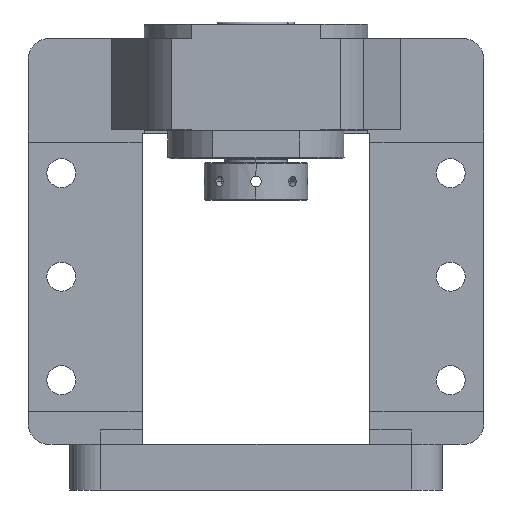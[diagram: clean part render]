
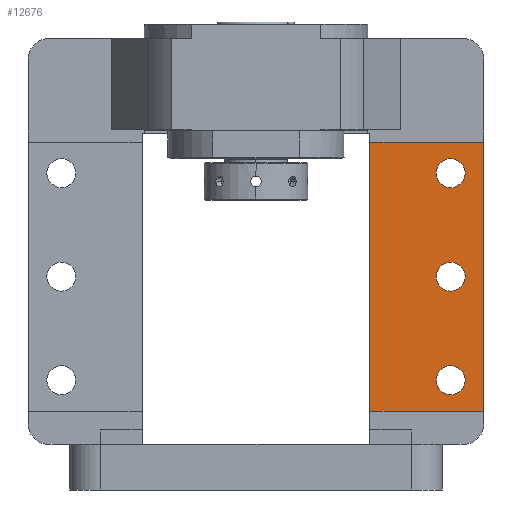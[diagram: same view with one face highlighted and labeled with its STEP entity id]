
A CAD part, front view. The second image highlights one B-rep face of the part: STEP entity #12676.
In plain terms, the highlighted planar face has unit normal (0, -1, 0).
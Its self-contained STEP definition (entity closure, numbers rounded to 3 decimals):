
#746 = CARTESIAN_POINT ( 'NONE',  ( 94., 0., 103. ) ) ;
#765 = VERTEX_POINT ( 'NONE', #18275 ) ;
#1286 = EDGE_LOOP ( 'NONE', ( #18541, #15675 ) ) ;
#1466 = EDGE_CURVE ( 'NONE', #3600, #19894, #20014, .T. ) ;
#2004 = CARTESIAN_POINT ( 'NONE',  ( 110., 0., 168. ) ) ;
#2582 = CARTESIAN_POINT ( 'NONE',  ( 94., 0., 160. ) ) ;
#2654 = DIRECTION ( 'NONE',  ( 0., 0., -1. ) ) ;
#3382 = EDGE_CURVE ( 'NONE', #20106, #15904, #9042, .T. ) ;
#3600 = VERTEX_POINT ( 'NONE', #19717 ) ;
#4145 = CARTESIAN_POINT ( 'NONE',  ( 110., 0., 38. ) ) ;
#4288 = ORIENTED_EDGE ( 'NONE', *, *, #23776, .T. ) ;
#4439 = VECTOR ( 'NONE', #23902, 1000. ) ;
#4878 = ORIENTED_EDGE ( 'NONE', *, *, #3382, .F. ) ;
#4960 = CARTESIAN_POINT ( 'NONE',  ( 55., 0., 168. ) ) ;
#5296 = DIRECTION ( 'NONE',  ( 0., -1., 0. ) ) ;
#5326 = CARTESIAN_POINT ( 'NONE',  ( 94., 0., 60. ) ) ;
#5973 = EDGE_CURVE ( 'NONE', #7941, #765, #24545, .T. ) ;
#5998 = DIRECTION ( 'NONE',  ( 0., -1., 0. ) ) ;
#6560 = DIRECTION ( 'NONE',  ( 0., 0., -1. ) ) ;
#7088 = EDGE_CURVE ( 'NONE', #13876, #21099, #16394, .T. ) ;
#7211 = EDGE_CURVE ( 'NONE', #7500, #19894, #10125, .T. ) ;
#7436 = CARTESIAN_POINT ( 'NONE',  ( 94., 0., 153. ) ) ;
#7500 = VERTEX_POINT ( 'NONE', #13306 ) ;
#7941 = VERTEX_POINT ( 'NONE', #2582 ) ;
#7955 = DIRECTION ( 'NONE',  ( 0., -1., 0. ) ) ;
#8083 = FACE_OUTER_BOUND ( 'NONE', #20009, .T. ) ;
#8337 = EDGE_CURVE ( 'NONE', #7500, #18998, #11901, .T. ) ;
#8507 = CARTESIAN_POINT ( 'NONE',  ( 94., 0., 153. ) ) ;
#8608 = CARTESIAN_POINT ( 'NONE',  ( 94., 0., 46. ) ) ;
#9042 = CIRCLE ( 'NONE', #9043, 7. ) ;
#9043 = AXIS2_PLACEMENT_3D ( 'NONE', #19063, #7955, #21329 ) ;
#9229 = AXIS2_PLACEMENT_3D ( 'NONE', #16758, #5296, #18676 ) ;
#9292 = EDGE_LOOP ( 'NONE', ( #4878, #11381 ) ) ;
#9363 = DIRECTION ( 'NONE',  ( 0., 0., -1. ) ) ;
#9593 = CIRCLE ( 'NONE', #19591, 7. ) ;
#10125 = LINE ( 'NONE', #14783, #19699 ) ;
#10391 = CARTESIAN_POINT ( 'NONE',  ( 94., 0., 110. ) ) ;
#10404 = DIRECTION ( 'NONE',  ( 0., 0., -1. ) ) ;
#11031 = AXIS2_PLACEMENT_3D ( 'NONE', #8507, #21882, #10404 ) ;
#11381 = ORIENTED_EDGE ( 'NONE', *, *, #20420, .F. ) ;
#11901 = LINE ( 'NONE', #2004, #21479 ) ;
#12232 = CIRCLE ( 'NONE', #9229, 7. ) ;
#12549 = ORIENTED_EDGE ( 'NONE', *, *, #1466, .T. ) ;
#12676 = ADVANCED_FACE ( 'NONE', ( #22110, #22733, #17057, #8083 ), #13735, .T. ) ;
#13165 = EDGE_CURVE ( 'NONE', #21099, #13876, #12232, .T. ) ;
#13306 = CARTESIAN_POINT ( 'NONE',  ( 110., 0., 168. ) ) ;
#13684 = AXIS2_PLACEMENT_3D ( 'NONE', #17452, #5998, #19366 ) ;
#13735 = PLANE ( 'NONE',  #18675 ) ;
#13876 = VERTEX_POINT ( 'NONE', #5326 ) ;
#14106 = DIRECTION ( 'NONE',  ( 0., -1., 0. ) ) ;
#14325 = VECTOR ( 'NONE', #23275, 1000. ) ;
#14783 = CARTESIAN_POINT ( 'NONE',  ( 110., 0., 225. ) ) ;
#14820 = EDGE_CURVE ( 'NONE', #765, #7941, #17606, .T. ) ;
#15209 = LINE ( 'NONE', #18147, #4439 ) ;
#15296 = CARTESIAN_POINT ( 'NONE',  ( 94., 0., 96. ) ) ;
#15368 = DIRECTION ( 'NONE',  ( -1., 0., 0. ) ) ;
#15675 = ORIENTED_EDGE ( 'NONE', *, *, #5973, .F. ) ;
#15694 = ORIENTED_EDGE ( 'NONE', *, *, #7211, .F. ) ;
#15904 = VERTEX_POINT ( 'NONE', #10391 ) ;
#16207 = ORIENTED_EDGE ( 'NONE', *, *, #13165, .F. ) ;
#16394 = CIRCLE ( 'NONE', #13684, 7. ) ;
#16719 = DIRECTION ( 'NONE',  ( 0., 0., -1. ) ) ;
#16758 = CARTESIAN_POINT ( 'NONE',  ( 94., 0., 53. ) ) ;
#17057 = FACE_BOUND ( 'NONE', #9292, .T. ) ;
#17452 = CARTESIAN_POINT ( 'NONE',  ( 94., 0., 53. ) ) ;
#17606 = CIRCLE ( 'NONE', #11031, 7. ) ;
#17740 = ORIENTED_EDGE ( 'NONE', *, *, #7088, .F. ) ;
#18034 = DIRECTION ( 'NONE',  ( 0., -1., 0. ) ) ;
#18147 = CARTESIAN_POINT ( 'NONE',  ( 55., 0., 225. ) ) ;
#18205 = AXIS2_PLACEMENT_3D ( 'NONE', #7436, #20813, #9363 ) ;
#18275 = CARTESIAN_POINT ( 'NONE',  ( 94., 0., 146. ) ) ;
#18541 = ORIENTED_EDGE ( 'NONE', *, *, #14820, .F. ) ;
#18675 = AXIS2_PLACEMENT_3D ( 'NONE', #21788, #18034, #6560 ) ;
#18676 = DIRECTION ( 'NONE',  ( 0., 0., -1. ) ) ;
#18998 = VERTEX_POINT ( 'NONE', #4960 ) ;
#19063 = CARTESIAN_POINT ( 'NONE',  ( 94., 0., 103. ) ) ;
#19366 = DIRECTION ( 'NONE',  ( 0., 0., -1. ) ) ;
#19591 = AXIS2_PLACEMENT_3D ( 'NONE', #746, #14106, #2654 ) ;
#19616 = ORIENTED_EDGE ( 'NONE', *, *, #8337, .T. ) ;
#19699 = VECTOR ( 'NONE', #16719, 1000. ) ;
#19717 = CARTESIAN_POINT ( 'NONE',  ( 55., 0., 38. ) ) ;
#19894 = VERTEX_POINT ( 'NONE', #20235 ) ;
#20009 = EDGE_LOOP ( 'NONE', ( #15694, #19616, #4288, #12549 ) ) ;
#20014 = LINE ( 'NONE', #4145, #14325 ) ;
#20106 = VERTEX_POINT ( 'NONE', #15296 ) ;
#20235 = CARTESIAN_POINT ( 'NONE',  ( 110., 0., 38. ) ) ;
#20420 = EDGE_CURVE ( 'NONE', #15904, #20106, #9593, .T. ) ;
#20813 = DIRECTION ( 'NONE',  ( 0., -1., 0. ) ) ;
#21099 = VERTEX_POINT ( 'NONE', #8608 ) ;
#21329 = DIRECTION ( 'NONE',  ( 0., 0., -1. ) ) ;
#21479 = VECTOR ( 'NONE', #15368, 1000. ) ;
#21788 = CARTESIAN_POINT ( 'NONE',  ( 110., 0., 225. ) ) ;
#21882 = DIRECTION ( 'NONE',  ( 0., -1., 0. ) ) ;
#22110 = FACE_BOUND ( 'NONE', #1286, .T. ) ;
#22733 = FACE_BOUND ( 'NONE', #22896, .T. ) ;
#22896 = EDGE_LOOP ( 'NONE', ( #16207, #17740 ) ) ;
#23275 = DIRECTION ( 'NONE',  ( 1., 0., 0. ) ) ;
#23776 = EDGE_CURVE ( 'NONE', #18998, #3600, #15209, .T. ) ;
#23902 = DIRECTION ( 'NONE',  ( 0., 0., -1. ) ) ;
#24545 = CIRCLE ( 'NONE', #18205, 7. ) ;
